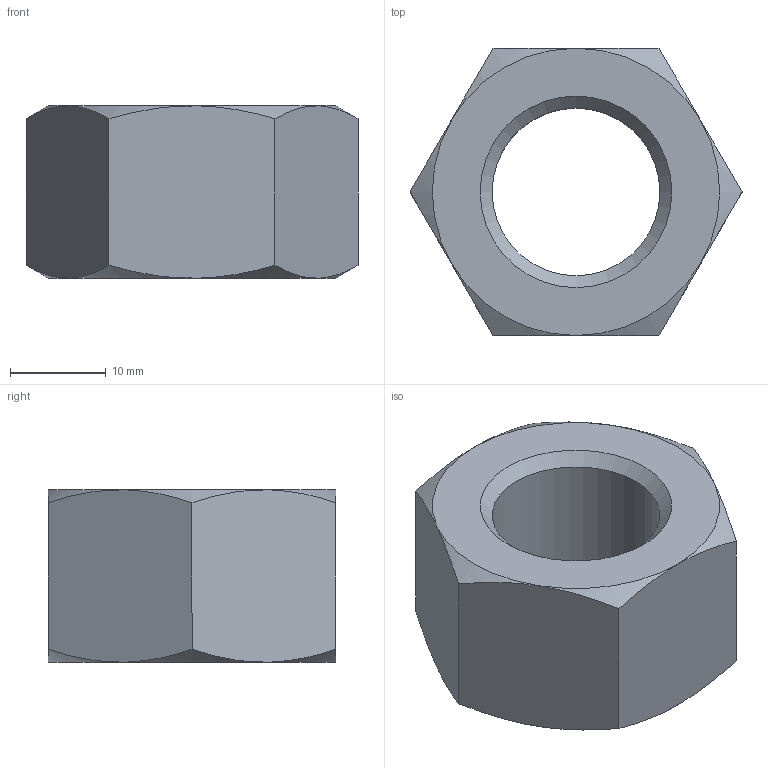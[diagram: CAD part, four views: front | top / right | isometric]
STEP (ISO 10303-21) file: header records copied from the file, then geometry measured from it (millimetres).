
FILE_DESCRIPTION( ( 'Unknown' ), '1' );
FILE_NAME( 'E:/-=Projekty=-/Projekty PKM/Solid Edge Standard Parts/nakrętki 4032/M20_PN-EN-ISO 4032_2004.stp', 'Unknown', ( 'Unknown' ), ( 'Unknown' ), 'PSStep 14.0', 'Unknown', ' ' );
FILE_SCHEMA( ( 'AUTOMOTIVE_DESIGN { 1 0 10303 214 1 1 1 1 }' ) );
Length unit declared in the file: millimetre
Products named in the file (1): 1
Bounding box: 34.64 x 30 x 18 mm (x, y, z)
Volume: 9550.6 mm3; surface area: 3787.6 mm2
Topology: 1 solids, 1 shells, 13 faces, 29 edges, 18 vertices
Faces by surface type: plane 8, cone 4, cylinder 1
Full cylindrical faces by diameter (mm): 17.5 x1
Entity records: 572 total; most frequent: CARTESIAN_POINT 196, ORIENTED_EDGE 48, DIRECTION 46, EDGE_CURVE 24, AXIS2_PLACEMENT_3D 20, EDGE_LOOP 20, VERTEX_POINT 18, FACE_OUTER_BOUND 14
